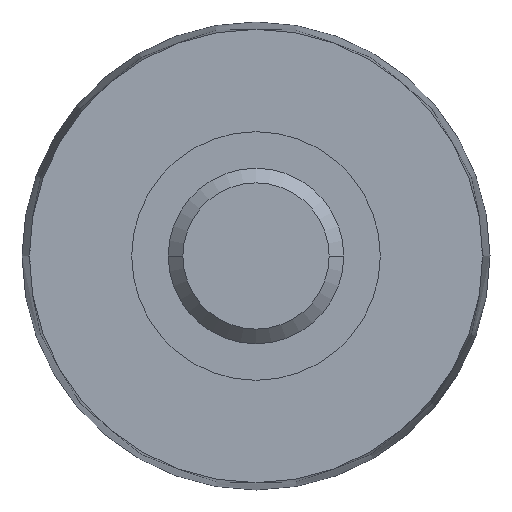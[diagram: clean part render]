
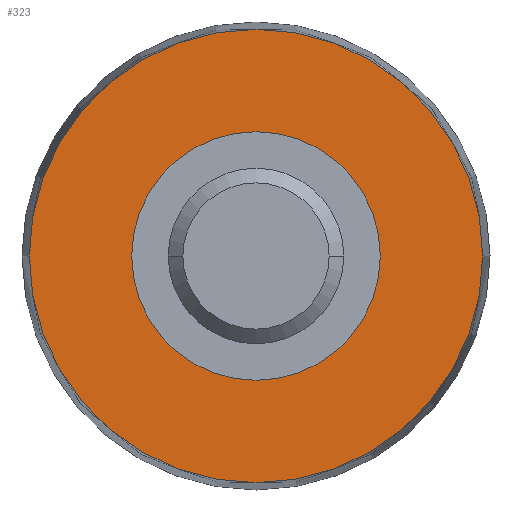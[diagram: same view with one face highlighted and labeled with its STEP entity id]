
A CAD part, left-side view. The second image highlights one B-rep face of the part: STEP entity #323.
In plain terms, the highlighted planar face has unit normal (-1, 0, 0).
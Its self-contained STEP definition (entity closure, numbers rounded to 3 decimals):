
#16 = AXIS2_PLACEMENT_3D ( 'NONE', #406, #132, #242 ) ;
#64 = DIRECTION ( 'NONE',  ( 0., -1., 0. ) ) ;
#91 = VERTEX_POINT ( 'NONE', #178 ) ;
#96 = FACE_BOUND ( 'NONE', #300, .T. ) ;
#101 = CIRCLE ( 'NONE', #569, 8.5 ) ;
#103 = EDGE_LOOP ( 'NONE', ( #585, #464 ) ) ;
#132 = DIRECTION ( 'NONE',  ( 1., 0., 0. ) ) ;
#143 = VERTEX_POINT ( 'NONE', #278 ) ;
#178 = CARTESIAN_POINT ( 'NONE',  ( -35., -8.5, 0. ) ) ;
#206 = CIRCLE ( 'NONE', #16, 8.5 ) ;
#210 = CARTESIAN_POINT ( 'NONE',  ( -35., -15.5, 0. ) ) ;
#223 = DIRECTION ( 'NONE',  ( 1., 0., 0. ) ) ;
#233 = EDGE_CURVE ( 'NONE', #283, #91, #206, .T. ) ;
#242 = DIRECTION ( 'NONE',  ( 0., 1., 0. ) ) ;
#278 = CARTESIAN_POINT ( 'NONE',  ( -35., 15.5, 0. ) ) ;
#283 = VERTEX_POINT ( 'NONE', #286 ) ;
#286 = CARTESIAN_POINT ( 'NONE',  ( -35., 8.5, 0. ) ) ;
#300 = EDGE_LOOP ( 'NONE', ( #640, #603 ) ) ;
#320 = DIRECTION ( 'NONE',  ( 0., 1., 0. ) ) ;
#321 = AXIS2_PLACEMENT_3D ( 'NONE', #575, #379, #320 ) ;
#323 = ADVANCED_FACE ( 'NONE', ( #96, #428 ), #356, .T. ) ;
#351 = VERTEX_POINT ( 'NONE', #210 ) ;
#356 = PLANE ( 'NONE',  #466 ) ;
#357 = CIRCLE ( 'NONE', #537, 15.5 ) ;
#359 = CARTESIAN_POINT ( 'NONE',  ( -35., 8.5, 0. ) ) ;
#363 = EDGE_CURVE ( 'NONE', #351, #143, #456, .T. ) ;
#370 = CARTESIAN_POINT ( 'NONE',  ( -35., 0., 0. ) ) ;
#379 = DIRECTION ( 'NONE',  ( 1., 0., 0. ) ) ;
#402 = EDGE_CURVE ( 'NONE', #143, #351, #357, .T. ) ;
#406 = CARTESIAN_POINT ( 'NONE',  ( -35., 0., 0. ) ) ;
#414 = EDGE_CURVE ( 'NONE', #91, #283, #101, .T. ) ;
#428 = FACE_OUTER_BOUND ( 'NONE', #103, .T. ) ;
#456 = CIRCLE ( 'NONE', #321, 15.5 ) ;
#464 = ORIENTED_EDGE ( 'NONE', *, *, #363, .F. ) ;
#466 = AXIS2_PLACEMENT_3D ( 'NONE', #359, #525, #64 ) ;
#494 = DIRECTION ( 'NONE',  ( 0., 1., 0. ) ) ;
#525 = DIRECTION ( 'NONE',  ( -1., 0., 0. ) ) ;
#537 = AXIS2_PLACEMENT_3D ( 'NONE', #370, #634, #628 ) ;
#569 = AXIS2_PLACEMENT_3D ( 'NONE', #643, #223, #494 ) ;
#575 = CARTESIAN_POINT ( 'NONE',  ( -35., 0., 0. ) ) ;
#585 = ORIENTED_EDGE ( 'NONE', *, *, #402, .F. ) ;
#603 = ORIENTED_EDGE ( 'NONE', *, *, #414, .T. ) ;
#628 = DIRECTION ( 'NONE',  ( 0., 1., 0. ) ) ;
#634 = DIRECTION ( 'NONE',  ( 1., 0., 0. ) ) ;
#640 = ORIENTED_EDGE ( 'NONE', *, *, #233, .T. ) ;
#643 = CARTESIAN_POINT ( 'NONE',  ( -35., 0., 0. ) ) ;
